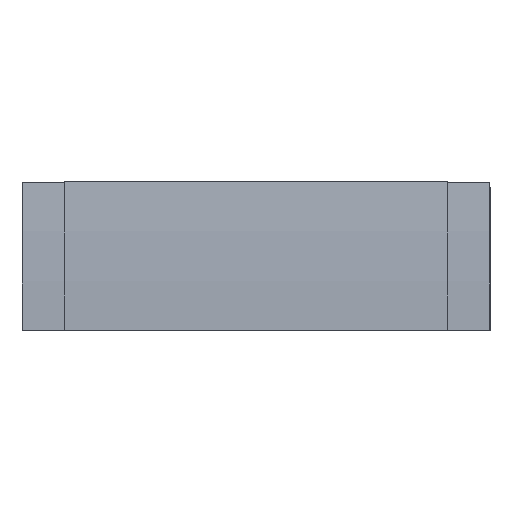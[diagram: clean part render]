
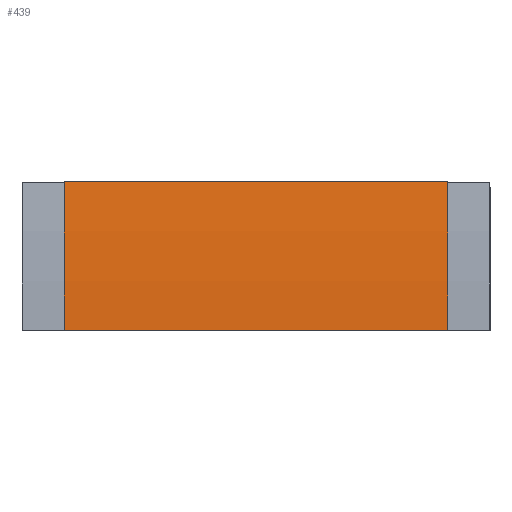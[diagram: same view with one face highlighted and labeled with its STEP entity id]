
A CAD part, front view. The second image highlights one B-rep face of the part: STEP entity #439.
In plain terms, the highlighted cylindrical face has radius 568 mm (diameter 1136 mm), a partial arc.
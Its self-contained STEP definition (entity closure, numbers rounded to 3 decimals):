
#20 = CARTESIAN_POINT ( 'NONE',  ( 0., 500., 0. ) ) ;
#23 = DIRECTION ( 'NONE',  ( 0., 0., -1. ) ) ;
#60 = DIRECTION ( 'NONE',  ( 1., 0., 0. ) ) ;
#205 = CARTESIAN_POINT ( 'NONE',  ( 95.25, 500., 0. ) ) ;
#274 = CARTESIAN_POINT ( 'NONE',  ( 95.25, -63.141, 74.139 ) ) ;
#275 = CARTESIAN_POINT ( 'NONE',  ( -95.25, -68., 0. ) ) ;
#276 = CARTESIAN_POINT ( 'NONE',  ( -95.25, -63.141, 74.139 ) ) ;
#281 = CARTESIAN_POINT ( 'NONE',  ( 95.25, -68., 0. ) ) ;
#288 = DIRECTION ( 'NONE',  ( 1., 0., 0. ) ) ;
#353 = DIRECTION ( 'NONE',  ( 1., 0., 0. ) ) ;
#356 = CARTESIAN_POINT ( 'NONE',  ( -95.25, -68., 0. ) ) ;
#357 = DIRECTION ( 'NONE',  ( 1., 0., 0. ) ) ;
#362 = CARTESIAN_POINT ( 'NONE',  ( -95.25, -63.141, 74.139 ) ) ;
#363 = DIRECTION ( 'NONE',  ( 0., 0., -1. ) ) ;
#369 = CARTESIAN_POINT ( 'NONE',  ( -95.25, 500., 0. ) ) ;
#371 = DIRECTION ( 'NONE',  ( 1., 0., 0. ) ) ;
#419 = DIRECTION ( 'NONE',  ( 0., 0., -1. ) ) ;
#439 = ADVANCED_FACE ( 'NONE', ( #734 ), #741, .T. ) ;
#478 = EDGE_CURVE ( 'NONE', #667, #668, #783, .T. ) ;
#495 = AXIS2_PLACEMENT_3D ( 'NONE', #20, #60, #23 ) ;
#518 = AXIS2_PLACEMENT_3D ( 'NONE', #205, #288, #419 ) ;
#520 = AXIS2_PLACEMENT_3D ( 'NONE', #369, #371, #363 ) ;
#557 = EDGE_CURVE ( 'NONE', #663, #665, #792, .T. ) ;
#559 = EDGE_CURVE ( 'NONE', #663, #667, #794, .T. ) ;
#560 = EDGE_CURVE ( 'NONE', #665, #668, #796, .T. ) ;
#663 = VERTEX_POINT ( 'NONE', #276 ) ;
#665 = VERTEX_POINT ( 'NONE', #275 ) ;
#667 = VERTEX_POINT ( 'NONE', #274 ) ;
#668 = VERTEX_POINT ( 'NONE', #281 ) ;
#734 = FACE_OUTER_BOUND ( 'NONE', #989, .T. ) ;
#741 = CYLINDRICAL_SURFACE ( 'NONE', #495, 568. ) ;
#783 = CIRCLE ( 'NONE', #518, 568. ) ;
#792 = CIRCLE ( 'NONE', #520, 568. ) ;
#794 = LINE ( 'NONE', #362, #797 ) ;
#796 = LINE ( 'NONE', #356, #799 ) ;
#797 = VECTOR ( 'NONE', #357, 1000. ) ;
#799 = VECTOR ( 'NONE', #353, 1000. ) ;
#960 = ORIENTED_EDGE ( 'NONE', *, *, #478, .F. ) ;
#961 = ORIENTED_EDGE ( 'NONE', *, *, #559, .F. ) ;
#962 = ORIENTED_EDGE ( 'NONE', *, *, #557, .T. ) ;
#963 = ORIENTED_EDGE ( 'NONE', *, *, #560, .T. ) ;
#989 = EDGE_LOOP ( 'NONE', ( #960, #961, #962, #963 ) ) ;
